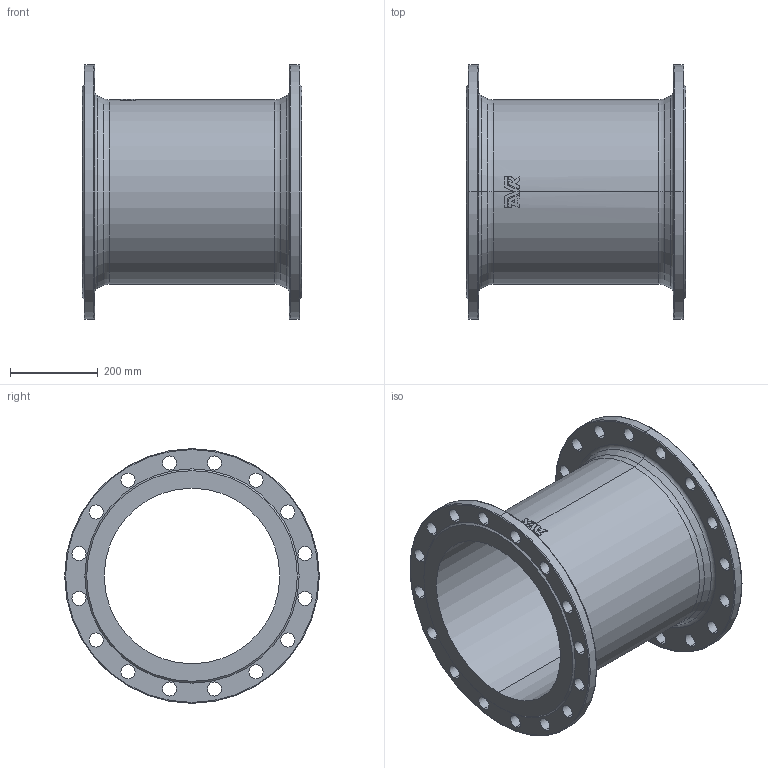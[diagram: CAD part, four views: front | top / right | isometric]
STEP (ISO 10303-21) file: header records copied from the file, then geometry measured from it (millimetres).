
FILE_DESCRIPTION (( 'STEP AP203' ), '1' );
FILE_NAME ('O_712_4810_DN400_1X_REV01.step', '2021-12-02T07:57:09', ( '' ), ( '' ), 'SwSTEP 2.0', 'SolidWorks 2019', '' );
FILE_SCHEMA (( 'CONFIG_CONTROL_DESIGN' ));
Length unit declared in the file: millimetre
Products named in the file (1): O_712_4810_DN400_1X_REV01
Bounding box: 500 x 580 x 580 mm (x, y, z)
Volume: 12693137.1 mm3; surface area: 1826593.2 mm2
Topology: 1 solids, 1 shells, 144 faces, 383 edges, 248 vertices
Faces by surface type: cylinder 77, plane 26, bspline 17, torus 16, cone 8
Entity records: 5518 total; most frequent: CARTESIAN_POINT 1631, DIRECTION 827, ORIENTED_EDGE 766, EDGE_CURVE 383, AXIS2_PLACEMENT_3D 350, VERTEX_POINT 248, CIRCLE 222, EDGE_LOOP 217
